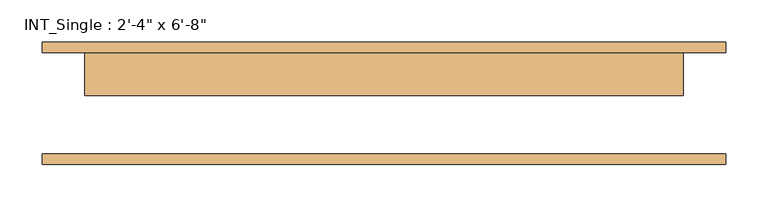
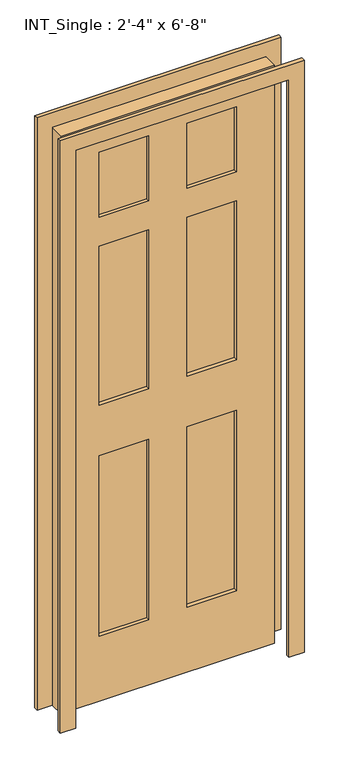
"""IFC4 building model written with IfcOpenShell, lengths in millimetres: door geometry."""

from ifc_helpers import new_model, si_unit, frame, origin, place, context, project, spatial, polyline, outline, extrude, source, transform, mapped, element, save


def door_38cb6b30(model_context):
    return source(origin(), model_context, "Body", "SweptSolid", [
        extrude(outline(polyline([(0.0, -406.4), (0.0, -355.6), (2032.0, -355.6), (2032.0, 355.6), (0.0, 355.6), (0.0, 406.4), (2082.8, 406.4), (2082.8, -406.4), (0.0, -406.4)])), frame((0.0, -73.025, 0.0), z_axis=(0.0, 1.0, 0.0), x_axis=(0.0, 0.0, 1.0)), (0.0, 0.0, 1.0), 12.7),
        extrude(outline(polyline([(0.0, 406.4), (2082.8, 406.4), (2082.8, -406.4), (0.0, -406.4), (0.0, -355.6), (2032.0, -355.6), (2032.0, 355.6), (0.0, 355.6), (0.0, 406.4)])), frame((0.0, 60.325, 0.0), z_axis=(0.0, 1.0, 0.0), x_axis=(0.0, 0.0, 1.0)), (0.0, 0.0, 1.0), 12.7),
        extrude(outline(polyline([(-63.5, 22.225), (-228.6, 22.225), (-228.6, 47.625), (-63.5, 47.625), (-63.5, 22.225)])), frame((0.0, 0.0, 1701.8), z_axis=(0.0, 0.0, 1.0), x_axis=(1.0, 0.0, 0.0)), (0.0, 0.0, 1.0), 228.6),
        extrude(outline(polyline([(228.6, 22.225), (63.5, 22.225), (63.5, 47.625), (228.6, 47.625), (228.6, 22.225)])), frame((0.0, 0.0, 1701.8), z_axis=(0.0, 0.0, 1.0), x_axis=(1.0, 0.0, 0.0)), (0.0, 0.0, 1.0), 228.6),
        extrude(outline(polyline([(-63.5, 22.225), (-228.6, 22.225), (-228.6, 47.625), (-63.5, 47.625), (-63.5, 22.225)])), frame((0.0, 0.0, 1041.4), z_axis=(0.0, 0.0, 1.0), x_axis=(1.0, 0.0, 0.0)), (0.0, 0.0, 1.0), 558.8),
        extrude(outline(polyline([(228.6, 22.225), (63.5, 22.225), (63.5, 47.625), (228.6, 47.625), (228.6, 22.225)])), frame((0.0, 0.0, 1041.4), z_axis=(0.0, 0.0, 1.0), x_axis=(1.0, 0.0, 0.0)), (0.0, 0.0, 1.0), 558.8),
        extrude(outline(polyline([(-63.5, 22.225), (-228.6, 22.225), (-228.6, 47.625), (-63.5, 47.625), (-63.5, 22.225)])), frame((0.0, 0.0, 228.6), z_axis=(0.0, 0.0, 1.0), x_axis=(1.0, 0.0, 0.0)), (0.0, 0.0, 1.0), 635.0),
        extrude(outline(polyline([(228.6, 22.225), (63.5, 22.225), (63.5, 47.625), (228.6, 47.625), (228.6, 22.225)])), frame((0.0, 0.0, 228.6), z_axis=(0.0, 0.0, 1.0), x_axis=(1.0, 0.0, 0.0)), (0.0, 0.0, 1.0), 635.0),
        extrude(outline(polyline([(2032.0, 355.6), (2032.0, -355.6), (0.0, -355.6), (0.0, 355.6), (2032.0, 355.6)]), holes=[polyline([(1930.4, -63.5), (1701.8, -63.5), (1701.8, -228.6), (1930.4, -228.6), (1930.4, -63.5)]), polyline([(1930.4, 228.6), (1701.8, 228.6), (1701.8, 63.5), (1930.4, 63.5), (1930.4, 228.6)]), polyline([(1600.2, -63.5), (1041.4, -63.5), (1041.4, -228.6), (1600.2, -228.6), (1600.2, -63.5)]), polyline([(1600.2, 228.6), (1041.4, 228.6), (1041.4, 63.5), (1600.2, 63.5), (1600.2, 228.6)]), polyline([(863.6, -63.5), (228.6, -63.5), (228.6, -228.6), (863.6, -228.6), (863.6, -63.5)]), polyline([(863.6, 228.6), (228.6, 228.6), (228.6, 63.5), (863.6, 63.5), (863.6, 228.6)])]), frame((0.0, 9.525, 0.0), z_axis=(0.0, 1.0, 0.0), x_axis=(0.0, 0.0, 1.0)), (0.0, 0.0, 1.0), 50.8),
    ])


if __name__ == "__main__":
    model = new_model("IFC4")
    model_context = context("Model", 3, world=origin())
    ifc_project = project(units=[si_unit("LENGTHUNIT", "METRE", prefix="MILLI")], contexts=[model_context])
    site = spatial("IfcSite", under=ifc_project)
    building = spatial("IfcBuilding", under=site)
    placement = place(None, origin())
    door_shape = door_38cb6b30(model_context)
    element("IfcDoor", 1, ObjectType="INT_Single : 2'-4\" x 6'-8\"", at=placement, inside=building, context=model_context, shape_type="MappedRepresentation", body=[
        mapped(door_shape, transform((0.0, 0.0, 0.0), x_axis=(1.0, 0.0, 0.0), y_axis=(0.0, 1.0, 0.0), z_axis=(0.0, 0.0, 1.0))),
    ])
    save(model, "model.ifc")
